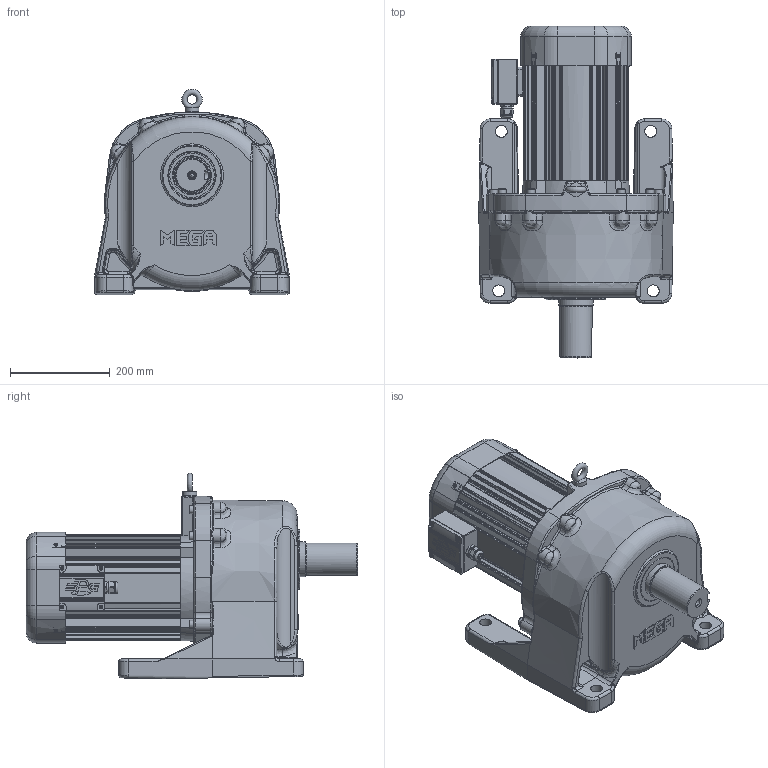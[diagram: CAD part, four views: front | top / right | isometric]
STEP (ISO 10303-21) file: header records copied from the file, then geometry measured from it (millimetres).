
FILE_DESCRIPTION(/* description */ (''),/* implementation_level */ '2;1');
FILE_NAME(/* name */ 'Z:\동력 3D 파일\PML235-(60~120)-PA(B)370[ ]L_(3D).stp',/* time_stamp */ '2021-09-07T17:21:21+09:00',/* author */ ('jaebok'),/* organization */ (''),/* preprocessor_version */ 'ST-DEVELOPER v18.1',/* originating_system */ 'Autodesk Inventor 2022',/* authorisation */ '');
FILE_SCHEMA (('AUTOMOTIVE_DESIGN { 1 0 10303 214 3 1 1 }'));
Length unit declared in the file: millimetre
Products named in the file (1): 부품3
Bounding box: 390 x 666 x 412.02 mm (x, y, z)
Volume: 12811115.9 mm3; surface area: 2084689.4 mm2
Topology: 6 solids, 44 shells, 2916 faces, 7390 edges, 4599 vertices
Faces by surface type: plane 1030, cylinder 870, bspline 480, torus 312, cone 185, sphere 39
Full cylindrical faces by diameter (mm): 3.25 x1, 3.6 x4, 4 x21, 4.5 x4, 5 x18, 6 x5, 6.647 x12, 7 x8, 8 x5, 8.376 x1, 9 x4, 10 x9, 10.106 x1, 12 x9, 12.5 x1, 13 x8, 13.835 x1, 15 x1, 16 x8, 20 x2, 21 x1, 23.6 x1, 24 x4, 25 x1, 26 x1, 28 x1, 31 x1, 36 x1, 48 x1, 50 x2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
Entity records: 111635 total; most frequent: CARTESIAN_POINT 40273, ORIENTED_EDGE 14614, DIRECTION 14090, EDGE_CURVE 7307, AXIS2_PLACEMENT_3D 5626, VERTEX_POINT 4596, EDGE_LOOP 3179, CIRCLE 3052
